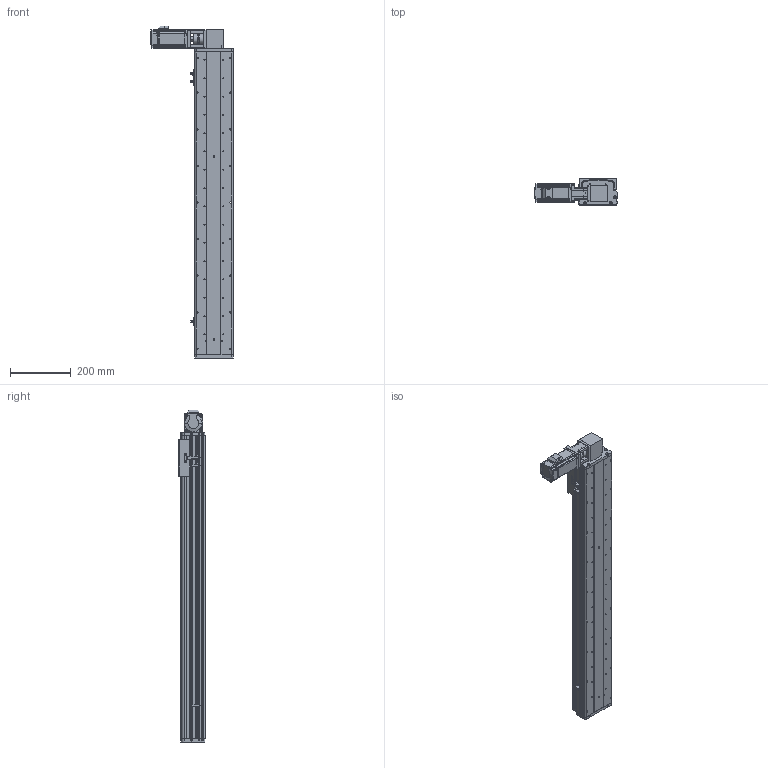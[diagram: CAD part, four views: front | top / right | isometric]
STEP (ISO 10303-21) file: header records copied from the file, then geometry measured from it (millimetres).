
FILE_DESCRIPTION (( 'STEP AP214' ), '1' );
FILE_NAME ('KSD125B-S800-MRT-CM.STEP', '2017-08-07T07:30:21', ( '微软用户' ), ( '微软中国' ), 'SwSTEP 2.0', 'SolidWorks 2014', '' );
FILE_SCHEMA (( 'AUTOMOTIVE_DESIGN' ));
Length unit declared in the file: millimetre
Products named in the file (16): U倰嫖萇假蚾璃; U倰嫖萇EEㄜSX672; KSD125模组同步带-防撞垫1; 100宽安装板同步带带电机座400W,86; 100宽马达安装板同步带右; 前端板-125宽模组同步带; 125模组同步带-尾端板1; KSD125模组同步带-滑动座1; KSD125B-S800-MRT-CM; KSD125模组800行程同步带-防尘盖; 125模组800行程同步带-底板; MHMD042G1CA_2_03; KSD125模组同步带-防撞垫2; CS-34X32-10X14; 100遵鎮湛假蚾啣1 ; 覜茼え68遵圉猾敕
Assembly tree (19 placements, depth 2):
  KSD125B-S800-MRT-CM
    KSD125模组同步带-滑动座1
    125模组同步带-尾端板1
    前端板-125宽模组同步带
    100宽马达安装板同步带右
    100宽安装板同步带带电机座400W,86
    KSD125模组同步带-防撞垫1
    U倰嫖萇EEㄜSX672  x3
    U倰嫖萇假蚾璃  x3
    覜茼え68遵圉猾敕
    100遵鎮湛假蚾啣1 
    CS-34X32-10X14
    KSD125模组同步带-防撞垫2
    MHMD042G1CA_2_03
    125模组800行程同步带-底板
    KSD125模组800行程同步带-防尘盖
Bounding box: 269 x 86 x 1089 mm (x, y, z)
Volume: 3374697.1 mm3; surface area: 1120239.6 mm2
Topology: 18 solids, 21 shells, 1692 faces, 4852 edges, 3200 vertices
Faces by surface type: cylinder 885, plane 704, cone 81, bspline 22
Entity records: 59484 total; most frequent: CARTESIAN_POINT 12038, DIRECTION 8707, ORIENTED_EDGE 8224, EDGE_CURVE 4190, AXIS2_PLACEMENT_3D 3237, VERTEX_POINT 2792, VECTOR 2233, LINE 2233
